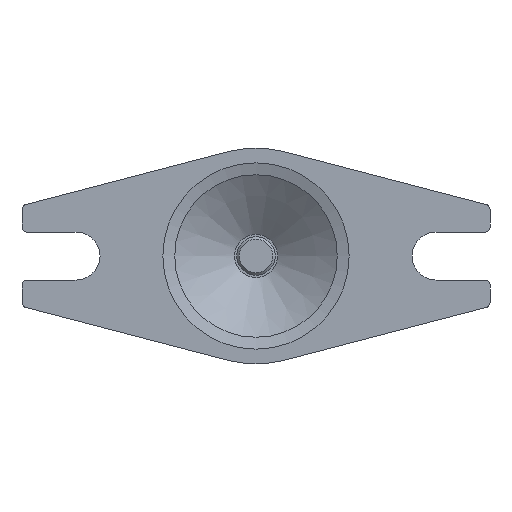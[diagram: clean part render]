
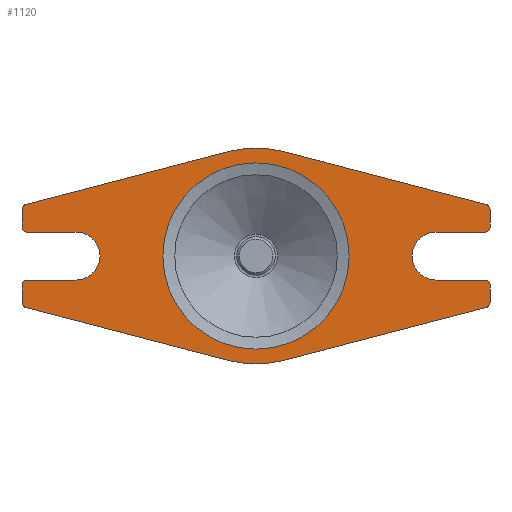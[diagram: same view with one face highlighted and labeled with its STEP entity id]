
A CAD part, front view. The second image highlights one B-rep face of the part: STEP entity #1120.
In plain terms, the highlighted planar face has unit normal (0, -1, 0).
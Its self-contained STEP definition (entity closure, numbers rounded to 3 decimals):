
#87=FACE_BOUND('',#249,.T.);
#116=PLANE('',#1228);
#168=FACE_OUTER_BOUND('',#248,.T.);
#248=EDGE_LOOP('',(#898,#899,#900,#901,#902,#903,#904,#905,#906,#907,#908,
#909,#910,#911,#912,#913,#914,#915,#916,#917,#918,#919,#920,#921));
#249=EDGE_LOOP('',(#922));
#320=LINE('',#1708,#392);
#325=LINE('',#1722,#397);
#331=LINE('',#1737,#403);
#334=LINE('',#1745,#406);
#338=LINE('',#1755,#410);
#341=LINE('',#1763,#413);
#344=LINE('',#1790,#416);
#347=LINE('',#1797,#419);
#348=LINE('',#1800,#420);
#350=LINE('',#1806,#422);
#352=LINE('',#1811,#424);
#353=LINE('',#1813,#425);
#392=VECTOR('',#1352,7.456);
#397=VECTOR('',#1367,7.456);
#403=VECTOR('',#1383,7.456);
#406=VECTOR('',#1392,20.5);
#410=VECTOR('',#1402,7.456);
#413=VECTOR('',#1411,87.463);
#416=VECTOR('',#1444,20.5);
#419=VECTOR('',#1453,20.5);
#420=VECTOR('',#1456,87.463);
#422=VECTOR('',#1464,20.5);
#424=VECTOR('',#1472,87.463);
#425=VECTOR('',#1475,87.463);
#451=CIRCLE('',#1168,2.);
#464=CIRCLE('',#1184,2.);
#465=CIRCLE('',#1186,2.);
#466=CIRCLE('',#1189,2.);
#467=CIRCLE('',#1191,2.);
#468=CIRCLE('',#1194,2.);
#469=CIRCLE('',#1197,2.);
#470=CIRCLE('',#1200,2.);
#476=CIRCLE('',#1211,38.811);
#477=CIRCLE('',#1215,45.);
#478=CIRCLE('',#1218,10.);
#479=CIRCLE('',#1222,45.);
#480=CIRCLE('',#1225,10.);
#509=VERTEX_POINT('',#1653);
#510=VERTEX_POINT('',#1655);
#534=VERTEX_POINT('',#1707);
#535=VERTEX_POINT('',#1711);
#536=VERTEX_POINT('',#1715);
#537=VERTEX_POINT('',#1717);
#538=VERTEX_POINT('',#1721);
#539=VERTEX_POINT('',#1725);
#540=VERTEX_POINT('',#1729);
#541=VERTEX_POINT('',#1730);
#542=VERTEX_POINT('',#1735);
#543=VERTEX_POINT('',#1739);
#544=VERTEX_POINT('',#1743);
#545=VERTEX_POINT('',#1747);
#546=VERTEX_POINT('',#1748);
#547=VERTEX_POINT('',#1753);
#548=VERTEX_POINT('',#1757);
#549=VERTEX_POINT('',#1761);
#555=VERTEX_POINT('',#1778);
#556=VERTEX_POINT('',#1783);
#557=VERTEX_POINT('',#1784);
#558=VERTEX_POINT('',#1789);
#559=VERTEX_POINT('',#1793);
#560=VERTEX_POINT('',#1799);
#561=VERTEX_POINT('',#1805);
#614=EDGE_CURVE('',#509,#510,#451,.T.);
#640=EDGE_CURVE('',#510,#534,#320,.T.);
#642=EDGE_CURVE('',#534,#535,#464,.T.);
#645=EDGE_CURVE('',#536,#537,#465,.T.);
#647=EDGE_CURVE('',#537,#538,#325,.T.);
#649=EDGE_CURVE('',#538,#539,#466,.T.);
#651=EDGE_CURVE('',#540,#541,#467,.T.);
#655=EDGE_CURVE('',#542,#540,#331,.T.);
#657=EDGE_CURVE('',#543,#542,#468,.T.);
#659=EDGE_CURVE('',#544,#543,#334,.T.);
#660=EDGE_CURVE('',#545,#546,#469,.T.);
#664=EDGE_CURVE('',#547,#545,#338,.T.);
#666=EDGE_CURVE('',#548,#547,#470,.T.);
#668=EDGE_CURVE('',#549,#548,#341,.T.);
#674=EDGE_CURVE('',#555,#555,#476,.T.);
#675=EDGE_CURVE('',#556,#557,#477,.T.);
#678=EDGE_CURVE('',#535,#558,#344,.T.);
#680=EDGE_CURVE('',#558,#559,#478,.T.);
#682=EDGE_CURVE('',#559,#536,#347,.T.);
#683=EDGE_CURVE('',#539,#560,#348,.T.);
#685=EDGE_CURVE('',#560,#549,#479,.T.);
#686=EDGE_CURVE('',#546,#561,#350,.T.);
#688=EDGE_CURVE('',#561,#544,#480,.T.);
#689=EDGE_CURVE('',#541,#556,#352,.T.);
#690=EDGE_CURVE('',#557,#509,#353,.T.);
#898=ORIENTED_EDGE('',*,*,#614,.F.);
#899=ORIENTED_EDGE('',*,*,#690,.F.);
#900=ORIENTED_EDGE('',*,*,#675,.F.);
#901=ORIENTED_EDGE('',*,*,#689,.F.);
#902=ORIENTED_EDGE('',*,*,#651,.F.);
#903=ORIENTED_EDGE('',*,*,#655,.F.);
#904=ORIENTED_EDGE('',*,*,#657,.F.);
#905=ORIENTED_EDGE('',*,*,#659,.F.);
#906=ORIENTED_EDGE('',*,*,#688,.F.);
#907=ORIENTED_EDGE('',*,*,#686,.F.);
#908=ORIENTED_EDGE('',*,*,#660,.F.);
#909=ORIENTED_EDGE('',*,*,#664,.F.);
#910=ORIENTED_EDGE('',*,*,#666,.F.);
#911=ORIENTED_EDGE('',*,*,#668,.F.);
#912=ORIENTED_EDGE('',*,*,#685,.F.);
#913=ORIENTED_EDGE('',*,*,#683,.F.);
#914=ORIENTED_EDGE('',*,*,#649,.F.);
#915=ORIENTED_EDGE('',*,*,#647,.F.);
#916=ORIENTED_EDGE('',*,*,#645,.F.);
#917=ORIENTED_EDGE('',*,*,#682,.F.);
#918=ORIENTED_EDGE('',*,*,#680,.F.);
#919=ORIENTED_EDGE('',*,*,#678,.F.);
#920=ORIENTED_EDGE('',*,*,#642,.F.);
#921=ORIENTED_EDGE('',*,*,#640,.F.);
#922=ORIENTED_EDGE('',*,*,#674,.T.);
#1120=ADVANCED_FACE('',(#168,#87),#116,.T.);
#1168=AXIS2_PLACEMENT_3D('',#1656,#1309,#1310);
#1184=AXIS2_PLACEMENT_3D('',#1712,#1356,#1357);
#1186=AXIS2_PLACEMENT_3D('',#1718,#1362,#1363);
#1189=AXIS2_PLACEMENT_3D('',#1726,#1371,#1372);
#1191=AXIS2_PLACEMENT_3D('',#1731,#1376,#1377);
#1194=AXIS2_PLACEMENT_3D('',#1741,#1387,#1388);
#1197=AXIS2_PLACEMENT_3D('',#1749,#1395,#1396);
#1200=AXIS2_PLACEMENT_3D('',#1759,#1406,#1407);
#1211=AXIS2_PLACEMENT_3D('',#1779,#1430,#1431);
#1215=AXIS2_PLACEMENT_3D('',#1785,#1438,#1439);
#1218=AXIS2_PLACEMENT_3D('',#1794,#1448,#1449);
#1222=AXIS2_PLACEMENT_3D('',#1803,#1460,#1461);
#1225=AXIS2_PLACEMENT_3D('',#1809,#1468,#1469);
#1228=AXIS2_PLACEMENT_3D('',#1814,#1476,#1477);
#1309=DIRECTION('center_axis',(0.,1.,0.));
#1310=DIRECTION('ref_axis',(-0.792,0.,-0.611));
#1352=DIRECTION('',(0.,0.,1.));
#1356=DIRECTION('center_axis',(0.,1.,0.));
#1357=DIRECTION('ref_axis',(-0.707,0.,0.707));
#1362=DIRECTION('center_axis',(0.,1.,0.));
#1363=DIRECTION('ref_axis',(-0.707,0.,-0.707));
#1367=DIRECTION('',(0.,0.,1.));
#1371=DIRECTION('center_axis',(0.,1.,0.));
#1372=DIRECTION('ref_axis',(-0.792,0.,0.611));
#1376=DIRECTION('center_axis',(0.,1.,0.));
#1377=DIRECTION('ref_axis',(0.792,0.,-0.611));
#1383=DIRECTION('',(0.,0.,-1.));
#1387=DIRECTION('center_axis',(0.,1.,0.));
#1388=DIRECTION('ref_axis',(0.707,0.,0.707));
#1392=DIRECTION('',(1.,0.,0.));
#1395=DIRECTION('center_axis',(0.,1.,0.));
#1396=DIRECTION('ref_axis',(0.707,0.,-0.707));
#1402=DIRECTION('',(0.,0.,-1.));
#1406=DIRECTION('center_axis',(0.,1.,0.));
#1407=DIRECTION('ref_axis',(0.792,0.,0.611));
#1411=DIRECTION('',(0.967,0.,-0.253));
#1430=DIRECTION('center_axis',(0.,1.,0.));
#1431=DIRECTION('ref_axis',(1.,0.,0.));
#1438=DIRECTION('center_axis',(0.,1.,0.));
#1439=DIRECTION('ref_axis',(0.253,0.,-0.967));
#1444=DIRECTION('',(1.,0.,0.));
#1448=DIRECTION('center_axis',(0.,-1.,0.));
#1449=DIRECTION('ref_axis',(0.,0.,-1.));
#1453=DIRECTION('',(-1.,0.,0.));
#1456=DIRECTION('',(0.967,0.,0.253));
#1460=DIRECTION('center_axis',(0.,1.,0.));
#1461=DIRECTION('ref_axis',(-0.253,0.,0.967));
#1464=DIRECTION('',(-1.,0.,0.));
#1468=DIRECTION('center_axis',(0.,-1.,0.));
#1469=DIRECTION('ref_axis',(0.,0.,1.));
#1472=DIRECTION('',(-0.967,0.,-0.253));
#1475=DIRECTION('',(-0.967,0.,0.253));
#1476=DIRECTION('center_axis',(0.,-1.,0.));
#1477=DIRECTION('ref_axis',(0.,0.,-1.));
#1653=CARTESIAN_POINT('',(1.494,0.,-66.391));
#1655=CARTESIAN_POINT('',(0.,0.,-64.456));
#1656=CARTESIAN_POINT('Origin',(2.,0.,-64.456));
#1707=CARTESIAN_POINT('',(0.,0.,-57.));
#1708=CARTESIAN_POINT('',(0.,0.,-90.));
#1711=CARTESIAN_POINT('',(2.,0.,-55.));
#1712=CARTESIAN_POINT('Origin',(2.,0.,-57.));
#1715=CARTESIAN_POINT('',(2.,0.,-35.));
#1717=CARTESIAN_POINT('',(0.,0.,-33.));
#1718=CARTESIAN_POINT('Origin',(2.,0.,-33.));
#1721=CARTESIAN_POINT('',(0.,0.,-25.544));
#1722=CARTESIAN_POINT('',(0.,0.,-90.));
#1725=CARTESIAN_POINT('',(1.494,0.,-23.609));
#1726=CARTESIAN_POINT('Origin',(2.,0.,-25.544));
#1729=CARTESIAN_POINT('',(195.,0.,-64.456));
#1730=CARTESIAN_POINT('',(193.506,0.,-66.391));
#1731=CARTESIAN_POINT('Origin',(193.,0.,-64.456));
#1735=CARTESIAN_POINT('',(195.,0.,-57.));
#1737=CARTESIAN_POINT('',(195.,0.,0.));
#1739=CARTESIAN_POINT('',(193.,0.,-55.));
#1741=CARTESIAN_POINT('Origin',(193.,0.,-57.));
#1743=CARTESIAN_POINT('',(172.5,0.,-55.));
#1745=CARTESIAN_POINT('',(146.25,0.,-55.));
#1747=CARTESIAN_POINT('',(195.,0.,-33.));
#1748=CARTESIAN_POINT('',(193.,0.,-35.));
#1749=CARTESIAN_POINT('Origin',(193.,0.,-33.));
#1753=CARTESIAN_POINT('',(195.,0.,-25.544));
#1755=CARTESIAN_POINT('',(195.,0.,0.));
#1757=CARTESIAN_POINT('',(193.506,0.,-23.609));
#1759=CARTESIAN_POINT('Origin',(193.,0.,-25.544));
#1761=CARTESIAN_POINT('',(108.893,0.,-1.466));
#1763=CARTESIAN_POINT('',(151.946,0.,-12.733));
#1778=CARTESIAN_POINT('',(58.689,0.,-45.));
#1779=CARTESIAN_POINT('Origin',(97.5,0.,-45.));
#1783=CARTESIAN_POINT('',(108.893,0.,-88.534));
#1784=CARTESIAN_POINT('',(86.107,0.,-88.534));
#1785=CARTESIAN_POINT('Origin',(97.5,0.,-45.));
#1789=CARTESIAN_POINT('',(22.5,0.,-55.));
#1790=CARTESIAN_POINT('',(60.,0.,-55.));
#1793=CARTESIAN_POINT('',(22.5,0.,-35.));
#1794=CARTESIAN_POINT('Origin',(22.5,0.,-45.));
#1797=CARTESIAN_POINT('',(48.75,0.,-35.));
#1799=CARTESIAN_POINT('',(86.107,0.,-1.466));
#1800=CARTESIAN_POINT('',(86.107,0.,-1.466));
#1803=CARTESIAN_POINT('Origin',(97.5,0.,-45.));
#1805=CARTESIAN_POINT('',(172.5,0.,-35.));
#1806=CARTESIAN_POINT('',(135.,0.,-35.));
#1809=CARTESIAN_POINT('Origin',(172.5,0.,-45.));
#1811=CARTESIAN_POINT('',(108.893,0.,-88.534));
#1813=CARTESIAN_POINT('',(43.054,0.,-77.267));
#1814=CARTESIAN_POINT('Origin',(97.5,0.,-45.));
